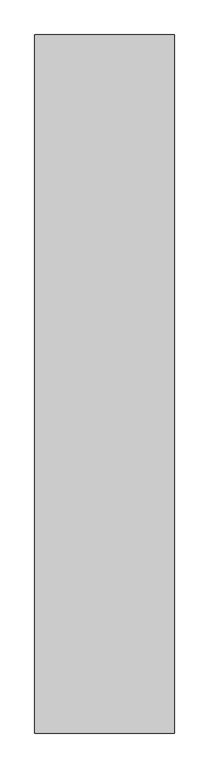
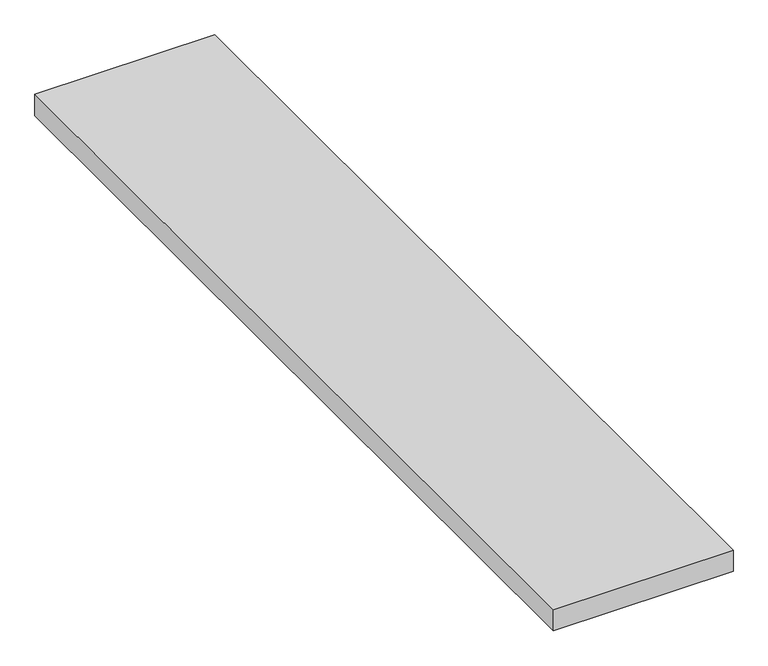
"""IFC4 building model written with IfcOpenShell, lengths in millimetres: proxy geometry, Água1 : Água."""

from ifc_helpers import new_model, si_unit, frame, origin, place, context, project, spatial, polyline, outline, extrude, source, transform, mapped, element, save


def generic_models_5408dc23(model_context):
    return source(origin(), model_context, "Body", "SweptSolid", [
        extrude(outline(polyline([(-8800.9370573, 569.391761), (-8300.9370573, 569.391761), (-8300.9370573, -1930.608239), (-8800.9370573, -1930.608239), (-8800.9370573, 569.391761)])), frame((0.0, 0.0, -80.0), z_axis=(0.0, 0.0, 1.0), x_axis=(1.0, 0.0, 0.0)), (0.0, 0.0, 1.0), 62.8828431),
    ])


if __name__ == "__main__":
    model = new_model("IFC4")
    model_context = context("Model", 3, world=origin())
    ifc_project = project(units=[si_unit("LENGTHUNIT", "METRE", prefix="MILLI")], contexts=[model_context])
    site = spatial("IfcSite", under=ifc_project)
    building = spatial("IfcBuilding", under=site)
    placement = place(None, origin())
    generic_models_shape = generic_models_5408dc23(model_context)
    element("IfcBuildingElementProxy", 1, Name="Água1 : Água", ObjectType="Água1 : Água", at=placement, inside=building, context=model_context, shape_type="MappedRepresentation", body=[
        mapped(generic_models_shape, transform((0.0, 0.0, 0.0), x_axis=(1.0, 0.0, 0.0), y_axis=(0.0, 1.0, 0.0), z_axis=(0.0, 0.0, 1.0))),
    ])
    save(model, "model.ifc")
